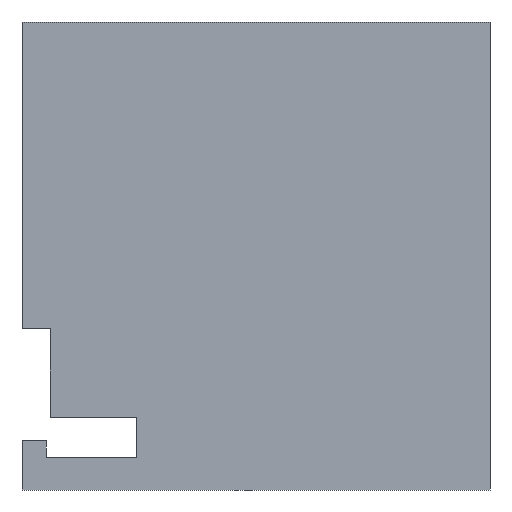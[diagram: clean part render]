
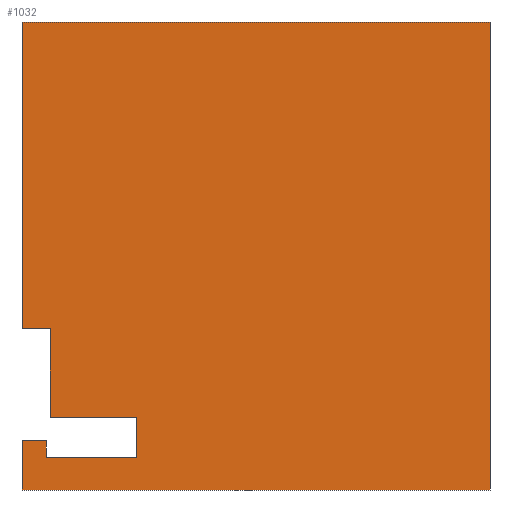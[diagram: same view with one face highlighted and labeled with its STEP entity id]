
A CAD part, front view. The second image highlights one B-rep face of the part: STEP entity #1032.
In plain terms, the highlighted planar face has unit normal (0, -1, 0).
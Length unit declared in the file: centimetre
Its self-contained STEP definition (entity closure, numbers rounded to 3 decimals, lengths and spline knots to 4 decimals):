
#31 = CARTESIAN_POINT ( 'NONE',  ( 60.6815, 0., 155.0083 ) ) ;
#33 = ORIENTED_EDGE ( 'NONE', *, *, #483, .T. ) ;
#49 = CARTESIAN_POINT ( 'NONE',  ( 51.2827, 0., 105.3511 ) ) ;
#52 = CARTESIAN_POINT ( 'NONE',  ( 51.2827, 0., 69.4347 ) ) ;
#53 = DIRECTION ( 'NONE',  ( 1., 0., 0. ) ) ;
#62 = DIRECTION ( 'NONE',  ( 0., 0., -1. ) ) ;
#67 = VERTEX_POINT ( 'NONE', #31 ) ;
#69 = LINE ( 'NONE', #173, #989 ) ;
#86 = EDGE_CURVE ( 'NONE', #706, #477, #702, .T. ) ;
#124 = EDGE_CURVE ( 'NONE', #477, #67, #519, .T. ) ;
#125 = EDGE_CURVE ( 'NONE', #1266, #379, #921, .T. ) ;
#143 = CARTESIAN_POINT ( 'NONE',  ( 0., 0., 1000. ) ) ;
#144 = ORIENTED_EDGE ( 'NONE', *, *, #757, .T. ) ;
#172 = ORIENTED_EDGE ( 'NONE', *, *, #86, .F. ) ;
#173 = CARTESIAN_POINT ( 'NONE',  ( 0., 0., 1000. ) ) ;
#183 = VECTOR ( 'NONE', #53, 100. ) ;
#191 = CARTESIAN_POINT ( 'NONE',  ( 51.2827, 0., 69.4347 ) ) ;
#195 = ORIENTED_EDGE ( 'NONE', *, *, #895, .F. ) ;
#201 = VECTOR ( 'NONE', #755, 100. ) ;
#209 = DIRECTION ( 'NONE',  ( 0., 0., 1. ) ) ;
#214 = DIRECTION ( 'NONE',  ( 0., 0., -1. ) ) ;
#230 = EDGE_CURVE ( 'NONE', #901, #1266, #347, .T. ) ;
#236 = CARTESIAN_POINT ( 'NONE',  ( 0., 0., 344.8943 ) ) ;
#246 = EDGE_CURVE ( 'NONE', #830, #379, #248, .T. ) ;
#248 = LINE ( 'NONE', #936, #183 ) ;
#284 = AXIS2_PLACEMENT_3D ( 'NONE', #547, #837, #346 ) ;
#325 = LINE ( 'NONE', #236, #971 ) ;
#332 = DIRECTION ( 'NONE',  ( -1., 0., 0. ) ) ;
#346 = DIRECTION ( 'NONE',  ( 0., 0., 1. ) ) ;
#347 = LINE ( 'NONE', #143, #389 ) ;
#379 = VERTEX_POINT ( 'NONE', #683 ) ;
#389 = VECTOR ( 'NONE', #940, 100. ) ;
#419 = CARTESIAN_POINT ( 'NONE',  ( 51.2827, 0., 155.0083 ) ) ;
#425 = EDGE_LOOP ( 'NONE', ( #631, #1041, #941, #804, #892, #1271, #878, #33, #144, #1220, #172, #195 ) ) ;
#437 = DIRECTION ( 'NONE',  ( 0., 0., -1. ) ) ;
#443 = VECTOR ( 'NONE', #1104, 100. ) ;
#454 = FACE_OUTER_BOUND ( 'NONE', #425, .T. ) ;
#477 = VERTEX_POINT ( 'NONE', #1030 ) ;
#483 = EDGE_CURVE ( 'NONE', #1230, #937, #325, .T. ) ;
#499 = CARTESIAN_POINT ( 'NONE',  ( 0., 0., 344.8943 ) ) ;
#509 = VECTOR ( 'NONE', #437, 100. ) ;
#519 = LINE ( 'NONE', #419, #628 ) ;
#527 = VECTOR ( 'NONE', #214, 100. ) ;
#547 = CARTESIAN_POINT ( 'NONE',  ( 0., 0., 1000. ) ) ;
#548 = VECTOR ( 'NONE', #209, 100. ) ;
#555 = PLANE ( 'NONE',  #284 ) ;
#571 = VERTEX_POINT ( 'NONE', #49 ) ;
#609 = DIRECTION ( 'NONE',  ( 1., 0., 0. ) ) ;
#628 = VECTOR ( 'NONE', #332, 100. ) ;
#631 = ORIENTED_EDGE ( 'NONE', *, *, #962, .F. ) ;
#638 = LINE ( 'NONE', #1145, #201 ) ;
#662 = EDGE_CURVE ( 'NONE', #571, #1072, #638, .T. ) ;
#683 = CARTESIAN_POINT ( 'NONE',  ( 1000., 0., 0. ) ) ;
#702 = LINE ( 'NONE', #1219, #548 ) ;
#706 = VERTEX_POINT ( 'NONE', #840 ) ;
#721 = CARTESIAN_POINT ( 'NONE',  ( 51.2827, 0., 69.4347 ) ) ;
#727 = EDGE_CURVE ( 'NONE', #901, #1230, #69, .T. ) ;
#755 = DIRECTION ( 'NONE',  ( -1., 0., 0. ) ) ;
#757 = EDGE_CURVE ( 'NONE', #937, #67, #967, .T. ) ;
#767 = CARTESIAN_POINT ( 'NONE',  ( 0., 0., 105.3511 ) ) ;
#804 = ORIENTED_EDGE ( 'NONE', *, *, #246, .T. ) ;
#815 = CARTESIAN_POINT ( 'NONE',  ( 0., 0., 1000. ) ) ;
#822 = CARTESIAN_POINT ( 'NONE',  ( 60.6815, 0., 344.8943 ) ) ;
#830 = VERTEX_POINT ( 'NONE', #1044 ) ;
#832 = CARTESIAN_POINT ( 'NONE',  ( 0., 0., 1000. ) ) ;
#837 = DIRECTION ( 'NONE',  ( 0., 1., 0. ) ) ;
#840 = CARTESIAN_POINT ( 'NONE',  ( 244.6775, 0., 69.4347 ) ) ;
#848 = CARTESIAN_POINT ( 'NONE',  ( 60.6815, 0., 105.3511 ) ) ;
#860 = DIRECTION ( 'NONE',  ( 0., 0., -1. ) ) ;
#865 = EDGE_CURVE ( 'NONE', #1072, #830, #925, .T. ) ;
#878 = ORIENTED_EDGE ( 'NONE', *, *, #727, .T. ) ;
#879 = CARTESIAN_POINT ( 'NONE',  ( 1000., 0., 1000. ) ) ;
#892 = ORIENTED_EDGE ( 'NONE', *, *, #125, .F. ) ;
#895 = EDGE_CURVE ( 'NONE', #1123, #706, #1126, .T. ) ;
#901 = VERTEX_POINT ( 'NONE', #815 ) ;
#921 = LINE ( 'NONE', #926, #527 ) ;
#925 = LINE ( 'NONE', #832, #443 ) ;
#926 = CARTESIAN_POINT ( 'NONE',  ( 1000., 0., 1000. ) ) ;
#935 = LINE ( 'NONE', #52, #509 ) ;
#936 = CARTESIAN_POINT ( 'NONE',  ( 0., 0., 0. ) ) ;
#937 = VERTEX_POINT ( 'NONE', #822 ) ;
#940 = DIRECTION ( 'NONE',  ( 1., 0., 0. ) ) ;
#941 = ORIENTED_EDGE ( 'NONE', *, *, #865, .T. ) ;
#962 = EDGE_CURVE ( 'NONE', #571, #1123, #935, .T. ) ;
#967 = LINE ( 'NONE', #848, #1029 ) ;
#971 = VECTOR ( 'NONE', #1116, 100. ) ;
#989 = VECTOR ( 'NONE', #860, 100. ) ;
#1029 = VECTOR ( 'NONE', #62, 100. ) ;
#1030 = CARTESIAN_POINT ( 'NONE',  ( 244.6775, 0., 155.0083 ) ) ;
#1032 = ADVANCED_FACE ( 'NONE', ( #454 ), #555, .F. ) ;
#1041 = ORIENTED_EDGE ( 'NONE', *, *, #662, .T. ) ;
#1044 = CARTESIAN_POINT ( 'NONE',  ( 0., 0., 0. ) ) ;
#1072 = VERTEX_POINT ( 'NONE', #767 ) ;
#1104 = DIRECTION ( 'NONE',  ( 0., 0., -1. ) ) ;
#1116 = DIRECTION ( 'NONE',  ( 1., 0., 0. ) ) ;
#1123 = VERTEX_POINT ( 'NONE', #191 ) ;
#1126 = LINE ( 'NONE', #721, #1172 ) ;
#1145 = CARTESIAN_POINT ( 'NONE',  ( 0., 0., 105.3511 ) ) ;
#1172 = VECTOR ( 'NONE', #609, 100. ) ;
#1219 = CARTESIAN_POINT ( 'NONE',  ( 244.6775, 0., 69.4347 ) ) ;
#1220 = ORIENTED_EDGE ( 'NONE', *, *, #124, .F. ) ;
#1230 = VERTEX_POINT ( 'NONE', #499 ) ;
#1266 = VERTEX_POINT ( 'NONE', #879 ) ;
#1271 = ORIENTED_EDGE ( 'NONE', *, *, #230, .F. ) ;
